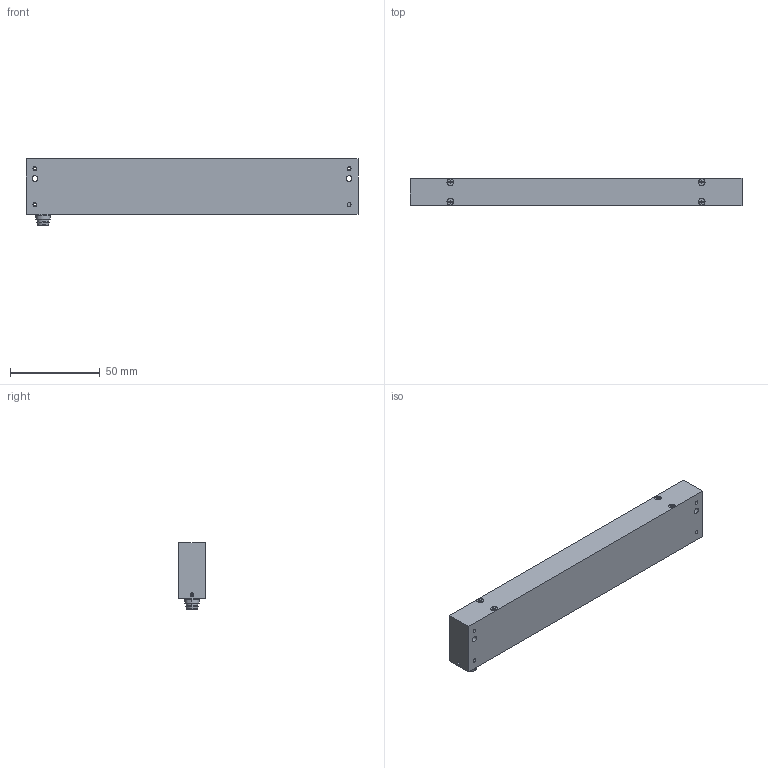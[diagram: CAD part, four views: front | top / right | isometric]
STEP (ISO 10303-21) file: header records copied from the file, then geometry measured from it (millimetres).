
FILE_DESCRIPTION(('STEP AP214'),'1');
FILE_NAME('TopLine 3TE Kundenmodell mit Front.stp','2020-04-07T13:05:22',(' '),(' '),'Spatial InterOp 3D',' ',' ');
FILE_SCHEMA(('AUTOMOTIVE_DESIGN { 1 0 10303 214 1 1 1 1 }'));
Length unit declared in the file: metre
Products named in the file (1): Volumenkörper
Bounding box: 185 x 15 x 37 mm (x, y, z)
Volume: 57867.1 mm3; surface area: 31524.8 mm2
Topology: 1 solids, 9 shells, 309 faces, 725 edges, 433 vertices
Faces by surface type: cylinder 110, plane 107, cone 66, sphere 16, torus 10
Entity records: 10896 total; most frequent: CARTESIAN_POINT 2282, DIRECTION 1569, ORIENTED_EDGE 1382, EDGE_CURVE 691, AXIS2_PLACEMENT_3D 612, VERTEX_POINT 433, EDGE_LOOP 362, LINE 345
